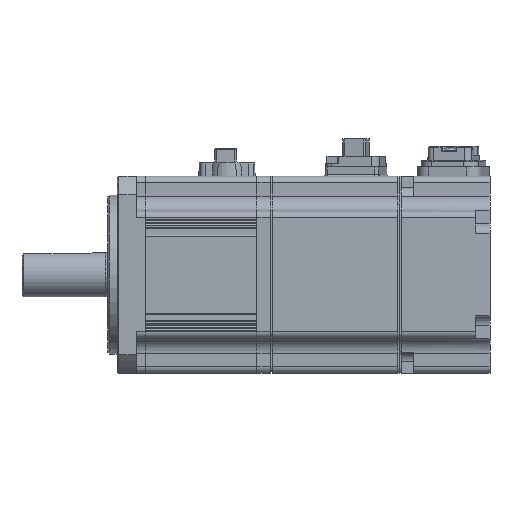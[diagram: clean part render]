
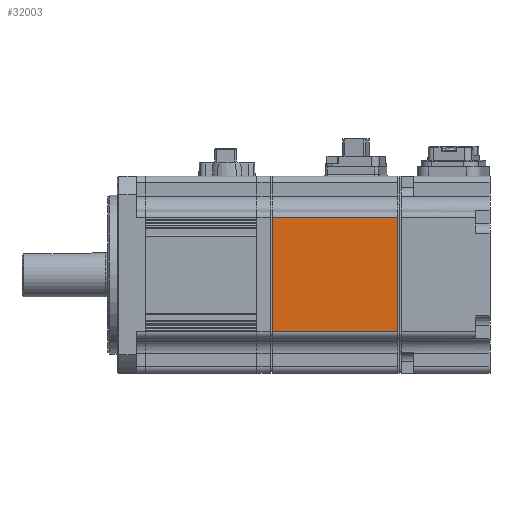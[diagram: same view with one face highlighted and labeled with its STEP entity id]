
A CAD part, left-side view. The second image highlights one B-rep face of the part: STEP entity #32003.
In plain terms, the highlighted planar face has unit normal (-1, 0, 0).
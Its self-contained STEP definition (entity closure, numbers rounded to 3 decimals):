
#520=PLANE('',#34166);
#2102=LINE('',#46692,#5438);
#2135=LINE('',#46851,#5471);
#2136=LINE('',#46855,#5472);
#2137=LINE('',#46856,#5473);
#5438=VECTOR('',#38168,36.);
#5471=VECTOR('',#38273,39.7);
#5472=VECTOR('',#38278,39.7);
#5473=VECTOR('',#38279,36.);
#9839=FACE_OUTER_BOUND('',#11725,.T.);
#11725=EDGE_LOOP('',(#24465,#24466,#24467,#24468));
#14923=VERTEX_POINT('',#46689);
#14924=VERTEX_POINT('',#46691);
#14967=VERTEX_POINT('',#46850);
#14968=VERTEX_POINT('',#46854);
#18564=EDGE_CURVE('',#14924,#14923,#2102,.T.);
#18622=EDGE_CURVE('',#14967,#14924,#2135,.T.);
#18624=EDGE_CURVE('',#14968,#14923,#2136,.T.);
#18625=EDGE_CURVE('',#14968,#14967,#2137,.T.);
#24465=ORIENTED_EDGE('',*,*,#18624,.F.);
#24466=ORIENTED_EDGE('',*,*,#18625,.T.);
#24467=ORIENTED_EDGE('',*,*,#18622,.T.);
#24468=ORIENTED_EDGE('',*,*,#18564,.T.);
#32003=ADVANCED_FACE('',(#9839),#520,.F.);
#34166=AXIS2_PLACEMENT_3D('',#46853,#38276,#38277);
#38168=DIRECTION('',(0.,0.,-1.));
#38273=DIRECTION('',(0.,1.,0.));
#38276=DIRECTION('center_axis',(1.,0.,0.));
#38277=DIRECTION('ref_axis',(0.,0.,1.));
#38278=DIRECTION('',(0.,1.,0.));
#38279=DIRECTION('',(0.,0.,1.));
#46689=CARTESIAN_POINT('',(-31.,-48.8,-18.));
#46691=CARTESIAN_POINT('',(-31.,-48.8,18.));
#46692=CARTESIAN_POINT('',(-31.,-48.8,-18.));
#46850=CARTESIAN_POINT('',(-31.,-88.5,18.));
#46851=CARTESIAN_POINT('',(-31.,-89.,18.));
#46853=CARTESIAN_POINT('Origin',(-31.,-89.,-18.));
#46854=CARTESIAN_POINT('',(-31.,-88.5,-18.));
#46855=CARTESIAN_POINT('',(-31.,-89.,-18.));
#46856=CARTESIAN_POINT('',(-31.,-88.5,18.));
